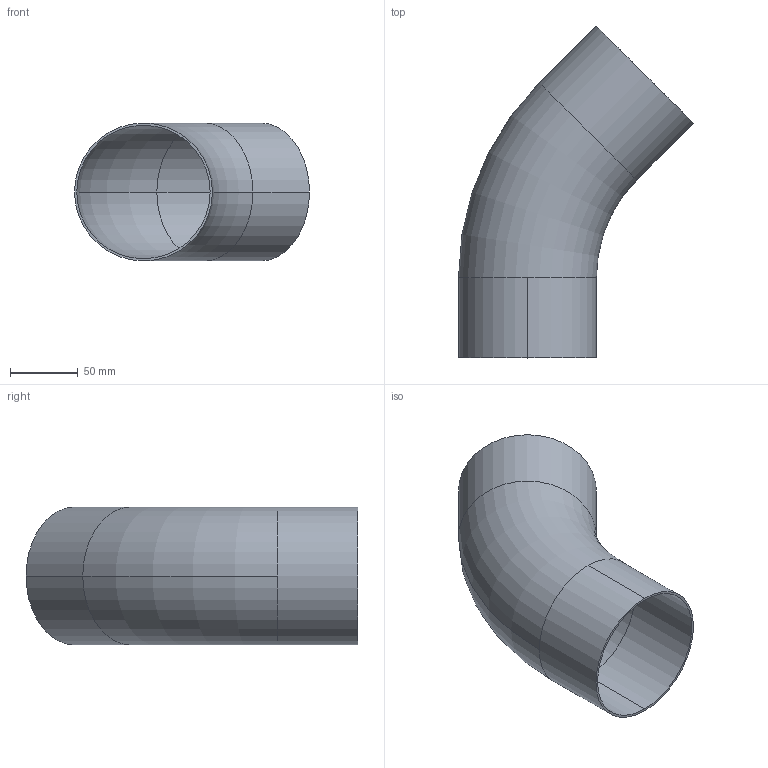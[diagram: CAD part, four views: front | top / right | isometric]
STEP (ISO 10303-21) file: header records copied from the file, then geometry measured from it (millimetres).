
FILE_DESCRIPTION (( 'STEP AP203' ), '1' );
FILE_NAME ('E2KS4.0.STEP', '2018-04-30T15:47:43', ( 'vneprd' ), ( 'Microsoft' ), 'SwSTEP 2.0', 'SolidWorks 2014', '' );
FILE_SCHEMA (( 'CONFIG_CONTROL_DESIGN' ));
Length unit declared in the file: inch
Products named in the file (1): E2KS4.0
Bounding box: 173.15 x 244.57 x 101.6 mm (x, y, z)
Volume: 123326.2 mm3; surface area: 150432.5 mm2
Topology: 1 solids, 1 shells, 14 faces, 32 edges, 20 vertices
Faces by surface type: cylinder 8, torus 4, plane 2
Entity records: 491 total; most frequent: DIRECTION 86, CARTESIAN_POINT 67, ORIENTED_EDGE 64, AXIS2_PLACEMENT_3D 39, EDGE_CURVE 32, CIRCLE 24, VERTEX_POINT 20, EDGE_LOOP 16
